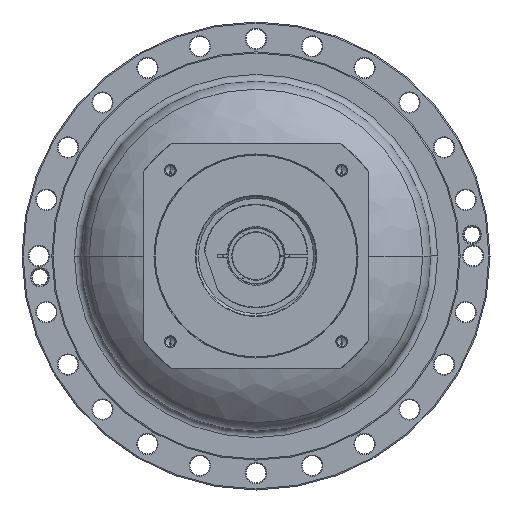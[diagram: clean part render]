
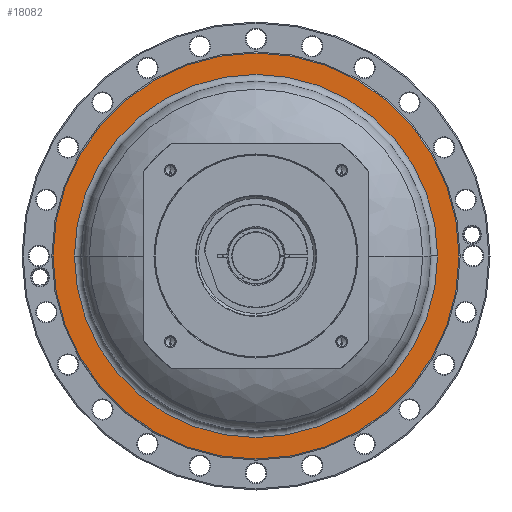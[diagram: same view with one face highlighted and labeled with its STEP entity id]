
A CAD part, left-side view. The second image highlights one B-rep face of the part: STEP entity #18082.
In plain terms, the highlighted planar face has unit normal (-1, 0, 0) as drawn and (1, 0, 0) by its records, which use the part's own axes.
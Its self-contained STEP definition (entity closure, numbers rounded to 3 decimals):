
#17543=CARTESIAN_POINT('',(-81.,0.,0.));
#17544=DIRECTION('',(-1.,0.,0.));
#17545=DIRECTION('',(0.,-1.,0.));
#17546=AXIS2_PLACEMENT_3D('',#17543,#17544,#17545);
#17548=CARTESIAN_POINT('',(-81.,0.,0.));
#17549=DIRECTION('',(-1.,0.,0.));
#17550=DIRECTION('',(0.,1.,0.));
#17551=AXIS2_PLACEMENT_3D('',#17548,#17549,#17550);
#17553=CARTESIAN_POINT('',(-81.,0.,0.));
#17554=DIRECTION('',(-1.,0.,0.));
#17555=DIRECTION('',(0.,-1.,0.));
#17556=AXIS2_PLACEMENT_3D('',#17553,#17554,#17555);
#17558=CARTESIAN_POINT('',(-81.,0.,0.));
#17559=DIRECTION('',(-1.,0.,0.));
#17560=DIRECTION('',(0.,1.,0.));
#17561=AXIS2_PLACEMENT_3D('',#17558,#17559,#17560);
#17683=CARTESIAN_POINT('',(-81.,-180.,0.));
#17684=CARTESIAN_POINT('',(-81.,180.,0.));
#17685=VERTEX_POINT('',#17683);
#17686=VERTEX_POINT('',#17684);
#17703=CARTESIAN_POINT('',(-81.,-161.,0.));
#17704=CARTESIAN_POINT('',(-81.,161.,0.));
#17705=VERTEX_POINT('',#17703);
#17706=VERTEX_POINT('',#17704);
#18067=CARTESIAN_POINT('',(-81.,0.,0.));
#18068=DIRECTION('',(1.,0.,0.));
#18069=DIRECTION('',(0.,-1.,0.));
#18070=AXIS2_PLACEMENT_3D('',#18067,#18068,#18069);
#18071=PLANE('',#18070);
#18073=ORIENTED_EDGE('',*,*,#18072,.T.);
#18075=ORIENTED_EDGE('',*,*,#18074,.T.);
#18076=EDGE_LOOP('',(#18073,#18075));
#18077=FACE_OUTER_BOUND('',#18076,.F.);
#18078=ORIENTED_EDGE('',*,*,#18061,.F.);
#18079=ORIENTED_EDGE('',*,*,#18047,.F.);
#18080=EDGE_LOOP('',(#18078,#18079));
#18081=FACE_BOUND('',#18080,.F.);
#18082=ADVANCED_FACE('',(#18077,#18081),#18071,.T.);
#17547=CIRCLE('',#17546,161.);
#17552=CIRCLE('',#17551,161.);
#17557=CIRCLE('',#17556,180.);
#17562=CIRCLE('',#17561,180.);
#18047=EDGE_CURVE('',#17706,#17705,#17552,.T.);
#18061=EDGE_CURVE('',#17705,#17706,#17547,.T.);
#18072=EDGE_CURVE('',#17685,#17686,#17557,.T.);
#18074=EDGE_CURVE('',#17686,#17685,#17562,.T.);
